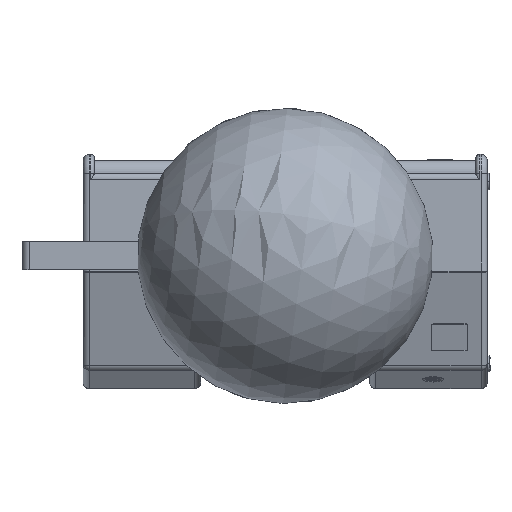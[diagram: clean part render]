
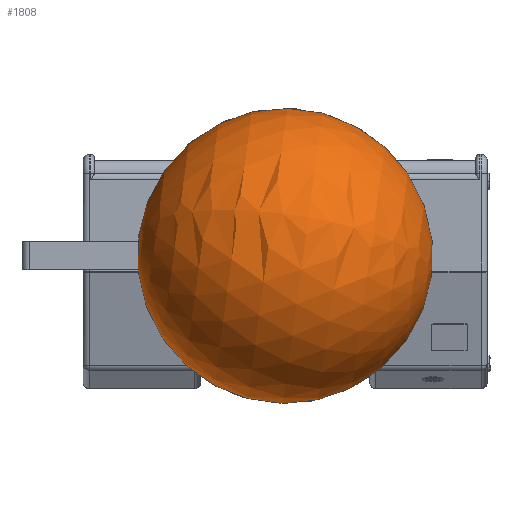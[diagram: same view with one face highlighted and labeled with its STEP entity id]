
A CAD part, left-side view. The second image highlights one B-rep face of the part: STEP entity #1808.
In plain terms, the highlighted spherical face has radius 157.25 mm.
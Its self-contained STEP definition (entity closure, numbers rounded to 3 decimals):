
#1442 = EDGE_CURVE ( 'NONE', #1443, #1444, #7701, .T. ) ;
#1443 = VERTEX_POINT ( 'NONE', #7755 ) ;
#1444 = VERTEX_POINT ( 'NONE', #7753 ) ;
#1805 = EDGE_CURVE ( 'NONE', #1444, #1443, #8662, .T. ) ;
#1808 = ADVANCED_FACE ( 'NONE', ( #8657 ), #8656, .T. ) ;
#1809 = EDGE_LOOP ( 'NONE', ( #1810, #1811 ) ) ;
#1810 = ORIENTED_EDGE ( 'NONE', *, *, #1805, .T. ) ;
#1811 = ORIENTED_EDGE ( 'NONE', *, *, #1442, .T. ) ;
#7701 = CIRCLE ( 'NONE', #7705, 25. ) ;
#7705 = AXIS2_PLACEMENT_3D ( 'NONE', #7758, #7757, #7756 ) ;
#7753 = CARTESIAN_POINT ( 'NONE',  ( -39., 82.999, 203. ) ) ;
#7755 = CARTESIAN_POINT ( 'NONE',  ( -39., 132.999, 203. ) ) ;
#7756 = DIRECTION ( 'NONE',  ( 0., -1., 0. ) ) ;
#7757 = DIRECTION ( 'NONE',  ( -1., 0., 0. ) ) ;
#7758 = CARTESIAN_POINT ( 'NONE',  ( -39., 107.999, 203. ) ) ;
#8653 = DIRECTION ( 'NONE',  ( 0., 0.135, -0.991 ) ) ;
#8654 = AXIS2_PLACEMENT_3D ( 'NONE', #8655, #8653, #8712 ) ;
#8655 = CARTESIAN_POINT ( 'NONE',  ( -194.25, 107.999, 203. ) ) ;
#8656 = SPHERICAL_SURFACE ( 'NONE', #8654, 157.25 ) ;
#8657 = FACE_OUTER_BOUND ( 'NONE', #1809, .T. ) ;
#8658 = DIRECTION ( 'NONE',  ( 0., -1., 0. ) ) ;
#8659 = DIRECTION ( 'NONE',  ( -1., 0., 0. ) ) ;
#8660 = CARTESIAN_POINT ( 'NONE',  ( -39., 107.999, 203. ) ) ;
#8661 = AXIS2_PLACEMENT_3D ( 'NONE', #8660, #8659, #8658 ) ;
#8662 = CIRCLE ( 'NONE', #8661, 25. ) ;
#8712 = DIRECTION ( 'NONE',  ( 0.745, 0.661, 0.09 ) ) ;
